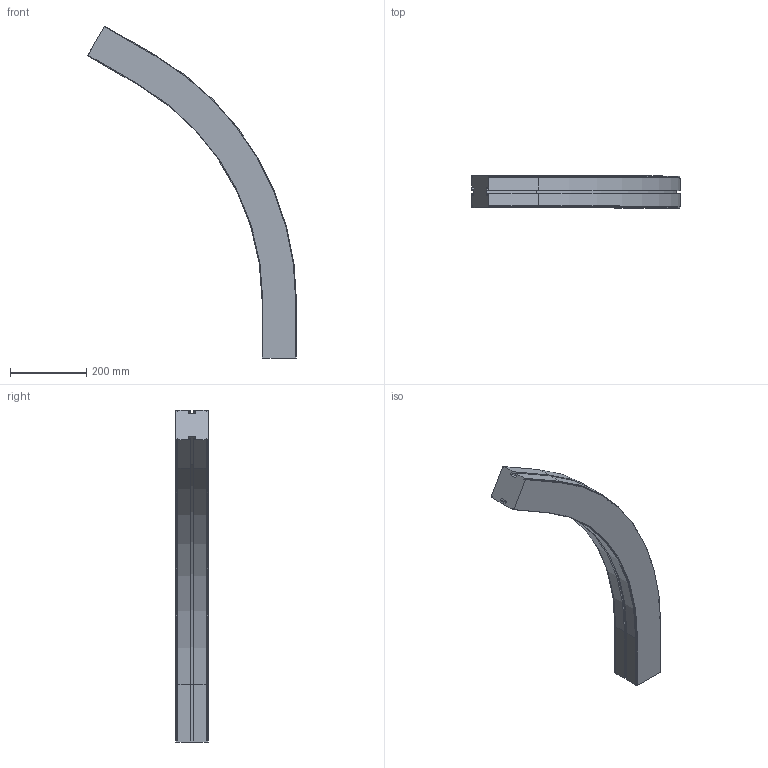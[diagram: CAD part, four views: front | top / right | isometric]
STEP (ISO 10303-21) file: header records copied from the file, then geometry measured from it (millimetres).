
FILE_DESCRIPTION (( 'STEP AP214' ), '1' );
FILE_NAME ('927755 CS090SL Horizontale bochtsectie R700 60°.STEP', '2014-03-20T14:55:46', ( 'Beheerder' ), ( '' ), 'SwSTEP 2.0', 'SolidWorks 2012', '' );
FILE_SCHEMA (( 'AUTOMOTIVE_DESIGN' ));
Length unit declared in the file: millimetre
Products named in the file (1): 927755 CS090SL Horizontale bochtsectie R700 60°
Bounding box: 547.4 x 84 x 870.19 mm (x, y, z)
Volume: 7391006.7 mm3; surface area: 483267.1 mm2
Topology: 1 solids, 1 shells, 98 faces, 272 edges, 176 vertices
Faces by surface type: plane 72, cylinder 18, cone 8
Entity records: 3126 total; most frequent: CARTESIAN_POINT 547, ORIENTED_EDGE 544, DIRECTION 514, EDGE_CURVE 272, VECTOR 228, LINE 228, VERTEX_POINT 176, AXIS2_PLACEMENT_3D 143
